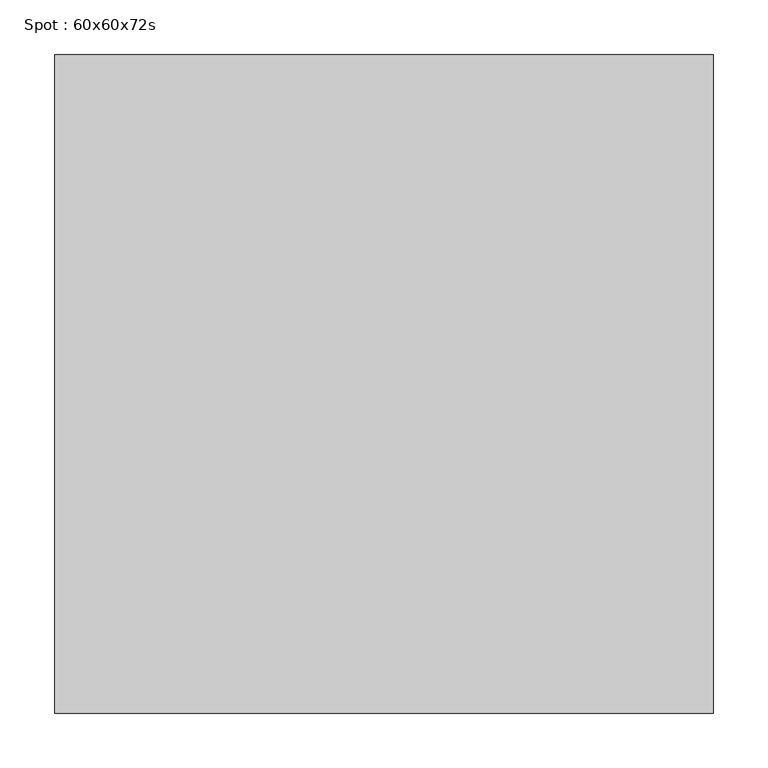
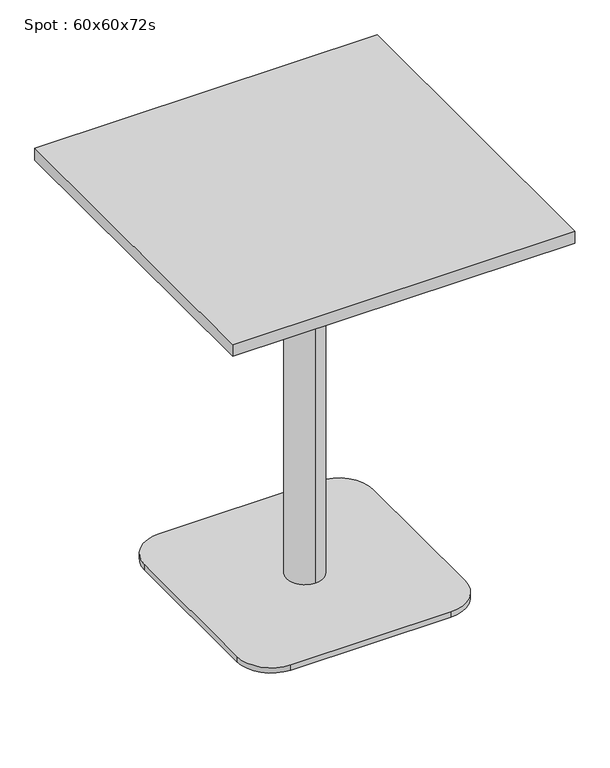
"""IFC4 building model written with IfcOpenShell, lengths in millimetres: furniture geometry, Spot : 60x60x72s."""

from ifc_helpers import new_model, si_unit, point, frame, frame_2d, origin, origin_with_axes, place, context, project, spatial, polyline, circle_curve, trimmed, segment, composite_curve, outline, extrude, source, transform, mapped, element, save
from ifc_brep_helpers import plane_surface, cylinder_surface, revolved_surface, advanced_brep


def spot_60x60x72s_653c7a8f(model_context):
    return source(origin(), model_context, "Body", "SolidModel", [
        extrude(outline(polyline([(300.0, 300.0), (300.0, -300.0), (-300.0, -300.0), (-300.0, 300.0), (300.0, 300.0)])), frame((0.0, 0.0, 698.0), z_axis=(0.0, 0.0, 1.0), x_axis=(1.0, 0.0, 0.0)), (0.0, 0.0, 1.0), 22.0),
        extrude(outline(composite_curve([segment(trimmed(circle_curve(frame_2d((140.0, 140.0)), 60.0), [point((140.0, 200.0))], [point((200.0, 140.0))], False, "CARTESIAN"), True, "CONTINUOUS"), segment(polyline([(200.0, 140.0), (200.0, -140.0)]), True, "CONTINUOUS"), segment(trimmed(circle_curve(frame_2d((140.0, -140.0)), 60.0), [point((200.0, -140.0))], [point((140.0, -200.0))], False, "CARTESIAN"), True, "CONTINUOUS"), segment(polyline([(140.0, -200.0), (-140.0, -200.0)]), True, "CONTINUOUS"), segment(trimmed(circle_curve(frame_2d((-140.0, -140.0)), 60.0), [point((-140.0, -200.0))], [point((-200.0, -140.0))], False, "CARTESIAN"), True, "CONTINUOUS"), segment(polyline([(-200.0, -140.0), (-200.0, 140.0)]), True, "CONTINUOUS"), segment(trimmed(circle_curve(frame_2d((-140.0, 140.0)), 60.0), [point((-200.0, 140.0))], [point((-140.0, 200.0))], False, "CARTESIAN"), True, "CONTINUOUS"), segment(polyline([(-140.0, 200.0), (140.0, 200.0)]), True, "CONTINUOUS")], self_intersect=False)), origin_with_axes(), (0.0, 0.0, 1.0), 10.0),
        advanced_brep(
        [(0.0, 32.0, 10.0), (0.0, -32.0, 10.0), (0.0, -32.0, 667.406916), (0.0, 32.0, 667.406916), (0.0, 0.0, 10.0), (0.0, 150.0, 698.0), (0.0, -150.0, 698.0), (0.0, 0.0, 698.0), (0.0, 150.0, 686.7213673), (0.0, -150.0, 686.7213673)],
        [
            (0, 1, circle_curve(frame((0.0, 0.0, 10.0), z_axis=(0.0, 0.0, 1.0), x_axis=(0.0, -1.0, 0.0)), 32.0)),
            (1, 2),
            (2, 3, circle_curve(frame((0.0, 0.0, 667.406916), z_axis=(0.0, 0.0, -1.0), x_axis=(0.0, -1.0, 0.0)), 32.0)),
            (3, 0),
            (1, 0, circle_curve(frame((0.0, 0.0, 10.0), z_axis=(0.0, 0.0, 1.0), x_axis=(0.0, -1.0, 0.0)), 32.0)),
            (3, 2, circle_curve(frame((0.0, 0.0, 667.406916), z_axis=(0.0, 0.0, -1.0), x_axis=(0.0, -1.0, 0.0)), 32.0)),
            (4, 1),
            (0, 4),
            (5, 6, circle_curve(frame((0.0, 0.0, 698.0), z_axis=(0.0, 0.0, 1.0), x_axis=(0.0, -1.0, 0.0)), 150.0)),
            (6, 7),
            (7, 5),
            (6, 5, circle_curve(frame((0.0, 0.0, 698.0), z_axis=(0.0, 0.0, 1.0), x_axis=(0.0, -1.0, 0.0)), 150.0)),
            (8, 9, circle_curve(frame((0.0, 0.0, 686.7213673), z_axis=(0.0, 0.0, 1.0), x_axis=(0.0, -1.0, 0.0)), 150.0)),
            (9, 6),
            (5, 8),
            (9, 8, circle_curve(frame((0.0, 0.0, 686.7213673), z_axis=(0.0, 0.0, 1.0), x_axis=(0.0, -1.0, 0.0)), 150.0)),
            (2, 9),
            (8, 3),
        ],
        [
            cylinder_surface(frame((0.0, 0.0, 1060.0), z_axis=(0.0, 0.0, -1.0), x_axis=(0.0, -1.0, 0.0)), 32.0),
            plane_surface(frame((0.0, 0.0, 10.0), z_axis=(0.0, 0.0, -1.0), x_axis=(0.0, -1.0, 0.0))),
            plane_surface(frame((0.0, 0.0, 698.0), z_axis=(0.0, 0.0, 1.0), x_axis=(0.0, -1.0, 0.0))),
            cylinder_surface(frame((0.0, 0.0, 1060.0), z_axis=(0.0, 0.0, -1.0), x_axis=(0.0, -1.0, 0.0)), 150.0),
            revolved_surface(polyline([(0.0, -150.0, 686.7213673), (0.0, -32.0, 667.406916)]), (0.0, 0.0, 1060.0), (0.0, 0.0, -1.0)),
        ],
        [
            (0, [[1, 2, 3, 4]]),
            (0, [[5, -4, 6, -2]]),
            (1, [[7, -1, 8]]),
            (1, [[-8, -5, -7]]),
            (2, [[9, 10, 11]]),
            (2, [[12, -11, -10]]),
            (3, [[13, 14, -9, 15]]),
            (3, [[16, -15, -12, -14]]),
            (4, [[-3, 17, -13, 18]]),
            (4, [[-6, -18, -16, -17]]),
        ],
    ),
        extrude(outline(polyline([(0.0, 0.0), (-20.0, 0.0), (-20.0, 20.0), (0.0, 20.0), (0.0, 0.0)])), origin_with_axes(), (0.0, 0.0, 1.0), 10.0),
    ])


if __name__ == "__main__":
    model = new_model("IFC4")
    model_context = context("Model", 3, world=origin())
    ifc_project = project(units=[si_unit("LENGTHUNIT", "METRE", prefix="MILLI")], contexts=[model_context])
    site = spatial("IfcSite", under=ifc_project)
    building = spatial("IfcBuilding", under=site)
    placement = place(None, origin())
    spot_60x60x72s_shape = spot_60x60x72s_653c7a8f(model_context)
    element("IfcFurniture", 1, ObjectType="Spot : 60x60x72s", at=placement, inside=building, context=model_context, shape_type="MappedRepresentation", body=[
        mapped(spot_60x60x72s_shape, transform((0.0, 0.0, 0.0), x_axis=(1.0, 0.0, 0.0), y_axis=(0.0, 1.0, 0.0), z_axis=(0.0, 0.0, 1.0))),
    ])
    save(model, "model.ifc")
